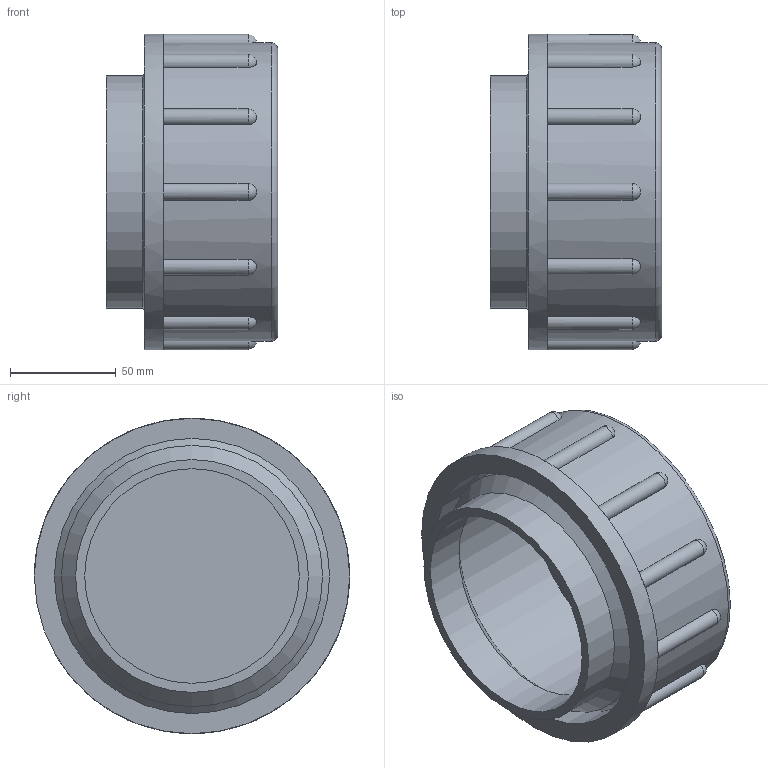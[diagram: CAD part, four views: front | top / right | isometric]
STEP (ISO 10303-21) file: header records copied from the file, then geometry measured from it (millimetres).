
FILE_DESCRIPTION(/* description */ (''),/* implementation_level */ '2;1');
FILE_NAME(/* name */ 'Z:\Geberit\Export\NewStep\Gewindest. m. Verschlk._Iassembly\stp\367750.stp',/* time_stamp */ '2014-04-03T17:41:24+02:00',/* author */ ('Marco'),/* organization */ (''),/* preprocessor_version */ 'ST-DEVELOPER v15.2',/* originating_system */ 'Autodesk Inventor 2014',/* authorisation */ '');
FILE_SCHEMA (('AUTOMOTIVE_DESIGN { 1 0 10303 214 3 1 1 }'));
Length unit declared in the file: millimetre
Products named in the file (3): 367784; 367785; 367750
Bounding box: 81 x 149 x 149 mm (x, y, z)
Volume: 459063.8 mm3; surface area: 148620.6 mm2
Topology: 2 solids, 2 shells, 55 faces, 152 edges, 89 vertices
Faces by surface type: cylinder 21, plane 16, sphere 12, cone 5, torus 1
Full cylindrical faces by diameter (mm): 101.4 x1, 110 x1, 111.5 x1, 123.4 x2, 130 x2, 141 x1, 149 x1
Entity records: 1947 total; most frequent: CARTESIAN_POINT 538, DIRECTION 298, ORIENTED_EDGE 250, AXIS2_PLACEMENT_3D 137, EDGE_CURVE 125, VERTEX_POINT 89, CIRCLE 77, EDGE_LOOP 72
